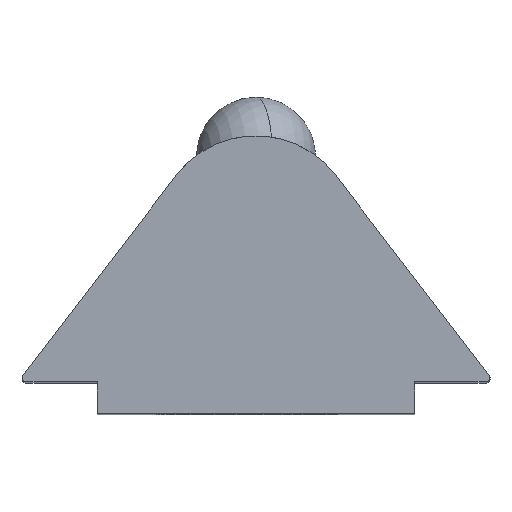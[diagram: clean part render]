
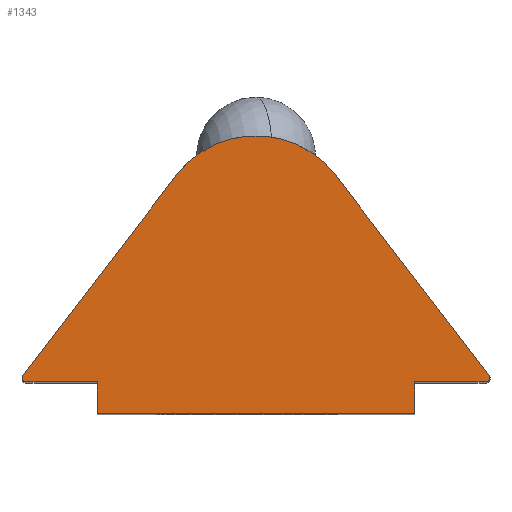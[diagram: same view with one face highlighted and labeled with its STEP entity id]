
A CAD part, top view. The second image highlights one B-rep face of the part: STEP entity #1343.
In plain terms, the highlighted planar face has unit normal (0, 0, 1).
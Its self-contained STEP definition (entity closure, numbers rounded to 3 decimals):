
#21 = CARTESIAN_POINT ( 'NONE',  ( 0., 0., 10. ) ) ;
#32 = ORIENTED_EDGE ( 'NONE', *, *, #141, .F. ) ;
#69 = VERTEX_POINT ( 'NONE', #2375 ) ;
#70 = DIRECTION ( 'NONE',  ( -1., 0., 0. ) ) ;
#92 = CARTESIAN_POINT ( 'NONE',  ( 5.877, 0.961, 10. ) ) ;
#98 = VECTOR ( 'NONE', #2599, 1000. ) ;
#141 = EDGE_CURVE ( 'NONE', #3264, #2377, #615, .T. ) ;
#183 = FACE_OUTER_BOUND ( 'NONE', #1329, .T. ) ;
#250 = DIRECTION ( 'NONE',  ( 1., 0., 0. ) ) ;
#345 = CIRCLE ( 'NONE', #3265, 0.1 ) ;
#414 = CARTESIAN_POINT ( 'NONE',  ( 2., 6.014, 10. ) ) ;
#449 = DIRECTION ( 'NONE',  ( 1., 0., 0. ) ) ;
#476 = DIRECTION ( 'NONE',  ( -0.609, 0.793, 0. ) ) ;
#478 = CARTESIAN_POINT ( 'NONE',  ( -2., 6.014, 10. ) ) ;
#552 = CARTESIAN_POINT ( 'NONE',  ( -5.877, 0.961, 10. ) ) ;
#558 = CARTESIAN_POINT ( 'NONE',  ( 0., 0.8, 10. ) ) ;
#607 = VECTOR ( 'NONE', #70, 1000. ) ;
#610 = CARTESIAN_POINT ( 'NONE',  ( 4., 0.8, 10. ) ) ;
#613 = ORIENTED_EDGE ( 'NONE', *, *, #3180, .F. ) ;
#615 = LINE ( 'NONE', #558, #647 ) ;
#624 = VECTOR ( 'NONE', #2383, 1000. ) ;
#647 = VECTOR ( 'NONE', #3401, 1000. ) ;
#657 = VERTEX_POINT ( 'NONE', #2634 ) ;
#709 = CARTESIAN_POINT ( 'NONE',  ( -5.797, 0.8, 10. ) ) ;
#788 = EDGE_CURVE ( 'NONE', #945, #657, #1322, .T. ) ;
#798 = DIRECTION ( 'NONE',  ( 0., 0., 1. ) ) ;
#930 = LINE ( 'NONE', #1024, #98 ) ;
#945 = VERTEX_POINT ( 'NONE', #552 ) ;
#1024 = CARTESIAN_POINT ( 'NONE',  ( 0., 0.8, 10. ) ) ;
#1044 = EDGE_CURVE ( 'NONE', #945, #2461, #2001, .T. ) ;
#1099 = VERTEX_POINT ( 'NONE', #610 ) ;
#1145 = EDGE_CURVE ( 'NONE', #69, #1099, #3038, .T. ) ;
#1155 = DIRECTION ( 'NONE',  ( 0., 1., 0. ) ) ;
#1172 = CIRCLE ( 'NONE', #1869, 2.521 ) ;
#1176 = VECTOR ( 'NONE', #476, 1000. ) ;
#1313 = CARTESIAN_POINT ( 'NONE',  ( 4.163, 3.194, 10. ) ) ;
#1322 = CIRCLE ( 'NONE', #3144, 0.1 ) ;
#1329 = EDGE_LOOP ( 'NONE', ( #2278, #2694, #2513, #32, #613, #3349, #3162, #3089, #2412, #2758, #2348 ) ) ;
#1342 = CIRCLE ( 'NONE', #2032, 0.1 ) ;
#1343 = ADVANCED_FACE ( 'NONE', ( #183 ), #3094, .T. ) ;
#1381 = VERTEX_POINT ( 'NONE', #414 ) ;
#1420 = CARTESIAN_POINT ( 'NONE',  ( -4., 0.8, 10. ) ) ;
#1424 = CARTESIAN_POINT ( 'NONE',  ( 4., 0., 10. ) ) ;
#1455 = AXIS2_PLACEMENT_3D ( 'NONE', #3073, #1780, #449 ) ;
#1524 = EDGE_CURVE ( 'NONE', #657, #2377, #1342, .T. ) ;
#1703 = EDGE_CURVE ( 'NONE', #2057, #1381, #2952, .T. ) ;
#1780 = DIRECTION ( 'NONE',  ( 0., 0., 1. ) ) ;
#1801 = DIRECTION ( 'NONE',  ( 0., 0., 1. ) ) ;
#1869 = AXIS2_PLACEMENT_3D ( 'NONE', #2884, #3167, #2871 ) ;
#1889 = VERTEX_POINT ( 'NONE', #2360 ) ;
#1983 = LINE ( 'NONE', #21, #607 ) ;
#2001 = LINE ( 'NONE', #2107, #624 ) ;
#2032 = AXIS2_PLACEMENT_3D ( 'NONE', #2055, #1801, #2597 ) ;
#2038 = CARTESIAN_POINT ( 'NONE',  ( 5.797, 0.8, 10. ) ) ;
#2055 = CARTESIAN_POINT ( 'NONE',  ( -5.797, 0.9, 10. ) ) ;
#2057 = VERTEX_POINT ( 'NONE', #92 ) ;
#2078 = CARTESIAN_POINT ( 'NONE',  ( -5.797, 0.9, 10. ) ) ;
#2107 = CARTESIAN_POINT ( 'NONE',  ( -4.163, 3.194, 10. ) ) ;
#2278 = ORIENTED_EDGE ( 'NONE', *, *, #1044, .F. ) ;
#2293 = DIRECTION ( 'NONE',  ( 0., 0., 1. ) ) ;
#2348 = ORIENTED_EDGE ( 'NONE', *, *, #2914, .T. ) ;
#2360 = CARTESIAN_POINT ( 'NONE',  ( -4., 0., 10. ) ) ;
#2375 = CARTESIAN_POINT ( 'NONE',  ( 4., 0., 10. ) ) ;
#2377 = VERTEX_POINT ( 'NONE', #709 ) ;
#2383 = DIRECTION ( 'NONE',  ( 0.609, 0.793, 0. ) ) ;
#2412 = ORIENTED_EDGE ( 'NONE', *, *, #2552, .T. ) ;
#2417 = DIRECTION ( 'NONE',  ( 0., 1., 0. ) ) ;
#2428 = VECTOR ( 'NONE', #2417, 1000. ) ;
#2461 = VERTEX_POINT ( 'NONE', #478 ) ;
#2490 = VERTEX_POINT ( 'NONE', #2038 ) ;
#2494 = VECTOR ( 'NONE', #1155, 1000. ) ;
#2513 = ORIENTED_EDGE ( 'NONE', *, *, #1524, .T. ) ;
#2543 = DIRECTION ( 'NONE',  ( 1., 0., 0. ) ) ;
#2552 = EDGE_CURVE ( 'NONE', #2490, #2057, #345, .T. ) ;
#2556 = CARTESIAN_POINT ( 'NONE',  ( 5.797, 0.9, 10. ) ) ;
#2597 = DIRECTION ( 'NONE',  ( 1., 0., 0. ) ) ;
#2599 = DIRECTION ( 'NONE',  ( 1., 0., 0. ) ) ;
#2630 = EDGE_CURVE ( 'NONE', #1099, #2490, #930, .T. ) ;
#2634 = CARTESIAN_POINT ( 'NONE',  ( -5.897, 0.9, 10. ) ) ;
#2694 = ORIENTED_EDGE ( 'NONE', *, *, #788, .T. ) ;
#2758 = ORIENTED_EDGE ( 'NONE', *, *, #1703, .T. ) ;
#2865 = LINE ( 'NONE', #3235, #2494 ) ;
#2871 = DIRECTION ( 'NONE',  ( -1., 0., 0. ) ) ;
#2884 = CARTESIAN_POINT ( 'NONE',  ( 0., 4.479, 10. ) ) ;
#2914 = EDGE_CURVE ( 'NONE', #1381, #2461, #1172, .T. ) ;
#2952 = LINE ( 'NONE', #1313, #1176 ) ;
#3038 = LINE ( 'NONE', #1424, #2428 ) ;
#3073 = CARTESIAN_POINT ( 'NONE',  ( 0., 0., 10. ) ) ;
#3089 = ORIENTED_EDGE ( 'NONE', *, *, #2630, .T. ) ;
#3094 = PLANE ( 'NONE',  #1455 ) ;
#3144 = AXIS2_PLACEMENT_3D ( 'NONE', #2078, #798, #250 ) ;
#3149 = EDGE_CURVE ( 'NONE', #69, #1889, #1983, .T. ) ;
#3162 = ORIENTED_EDGE ( 'NONE', *, *, #1145, .T. ) ;
#3167 = DIRECTION ( 'NONE',  ( 0., 0., 1. ) ) ;
#3180 = EDGE_CURVE ( 'NONE', #1889, #3264, #2865, .T. ) ;
#3235 = CARTESIAN_POINT ( 'NONE',  ( -4., 0., 10. ) ) ;
#3264 = VERTEX_POINT ( 'NONE', #1420 ) ;
#3265 = AXIS2_PLACEMENT_3D ( 'NONE', #2556, #2293, #2543 ) ;
#3349 = ORIENTED_EDGE ( 'NONE', *, *, #3149, .F. ) ;
#3401 = DIRECTION ( 'NONE',  ( -1., 0., 0. ) ) ;
